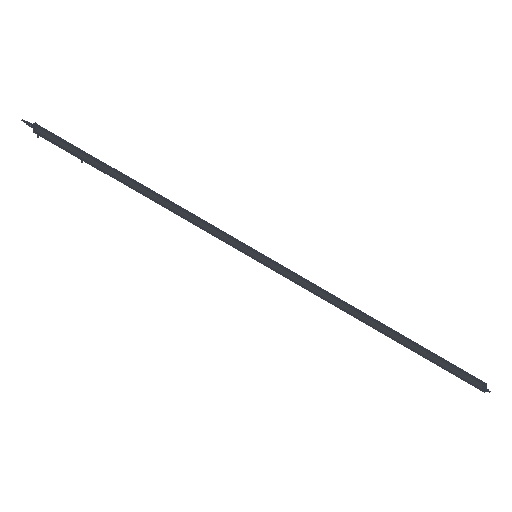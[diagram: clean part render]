
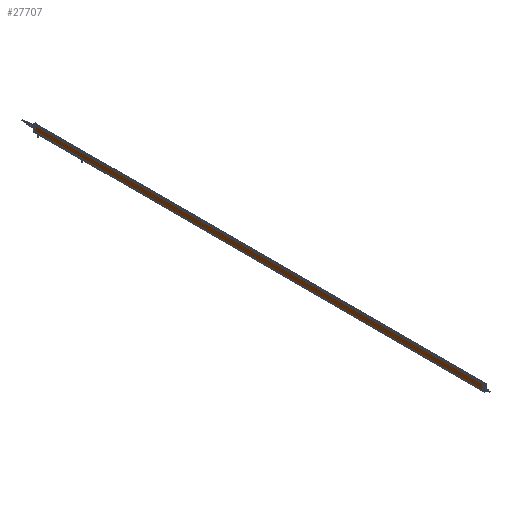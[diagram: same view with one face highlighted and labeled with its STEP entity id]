
A CAD part, isometric view. The second image highlights one B-rep face of the part: STEP entity #27707.
In plain terms, the highlighted planar face has unit normal (-1, 0, 0).
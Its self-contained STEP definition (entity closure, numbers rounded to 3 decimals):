
#633 = CARTESIAN_POINT ( 'NONE',  ( -9., 0., 28.5 ) ) ;
#824 = DIRECTION ( 'NONE',  ( 0., -1., 0. ) ) ;
#955 = VECTOR ( 'NONE', #11386, 1000. ) ;
#1175 = CARTESIAN_POINT ( 'NONE',  ( -9., 0., 28.5 ) ) ;
#2139 = LINE ( 'NONE', #633, #23328 ) ;
#3061 = CARTESIAN_POINT ( 'NONE',  ( -9., 2035., 28.5 ) ) ;
#3366 = CARTESIAN_POINT ( 'NONE',  ( -9., 2035., 28.5 ) ) ;
#4555 = AXIS2_PLACEMENT_3D ( 'NONE', #30063, #22164, #824 ) ;
#6849 = VERTEX_POINT ( 'NONE', #1175 ) ;
#6891 = FACE_OUTER_BOUND ( 'NONE', #13467, .T. ) ;
#7350 = VERTEX_POINT ( 'NONE', #28434 ) ;
#8068 = LINE ( 'NONE', #3366, #955 ) ;
#8162 = ORIENTED_EDGE ( 'NONE', *, *, #28658, .F. ) ;
#8332 = LINE ( 'NONE', #25574, #16224 ) ;
#8501 = EDGE_CURVE ( 'NONE', #7350, #12940, #10329, .T. ) ;
#8897 = DIRECTION ( 'NONE',  ( 0., 0., -1. ) ) ;
#9981 = EDGE_CURVE ( 'NONE', #6849, #17684, #2139, .T. ) ;
#10329 = LINE ( 'NONE', #3061, #28437 ) ;
#11386 = DIRECTION ( 'NONE',  ( 0., -1., 0. ) ) ;
#12940 = VERTEX_POINT ( 'NONE', #20398 ) ;
#13467 = EDGE_LOOP ( 'NONE', ( #19967, #8162, #20731, #18536 ) ) ;
#14219 = DIRECTION ( 'NONE',  ( 0., 0., -1. ) ) ;
#16224 = VECTOR ( 'NONE', #20040, 1000. ) ;
#17684 = VERTEX_POINT ( 'NONE', #31851 ) ;
#18536 = ORIENTED_EDGE ( 'NONE', *, *, #24499, .T. ) ;
#19967 = ORIENTED_EDGE ( 'NONE', *, *, #9981, .F. ) ;
#20040 = DIRECTION ( 'NONE',  ( 0., -1., 0. ) ) ;
#20398 = CARTESIAN_POINT ( 'NONE',  ( -9., 2035., 0.5 ) ) ;
#20731 = ORIENTED_EDGE ( 'NONE', *, *, #8501, .T. ) ;
#22164 = DIRECTION ( 'NONE',  ( -1., 0., 0. ) ) ;
#23328 = VECTOR ( 'NONE', #8897, 1000. ) ;
#24361 = PLANE ( 'NONE',  #4555 ) ;
#24499 = EDGE_CURVE ( 'NONE', #12940, #17684, #8332, .T. ) ;
#25574 = CARTESIAN_POINT ( 'NONE',  ( -9., 2035., 0.5 ) ) ;
#27707 = ADVANCED_FACE ( 'NONE', ( #6891 ), #24361, .T. ) ;
#28434 = CARTESIAN_POINT ( 'NONE',  ( -9., 2035., 28.5 ) ) ;
#28437 = VECTOR ( 'NONE', #14219, 1000. ) ;
#28658 = EDGE_CURVE ( 'NONE', #7350, #6849, #8068, .T. ) ;
#30063 = CARTESIAN_POINT ( 'NONE',  ( -9., 2035., 28.5 ) ) ;
#31851 = CARTESIAN_POINT ( 'NONE',  ( -9., 0., 0.5 ) ) ;
